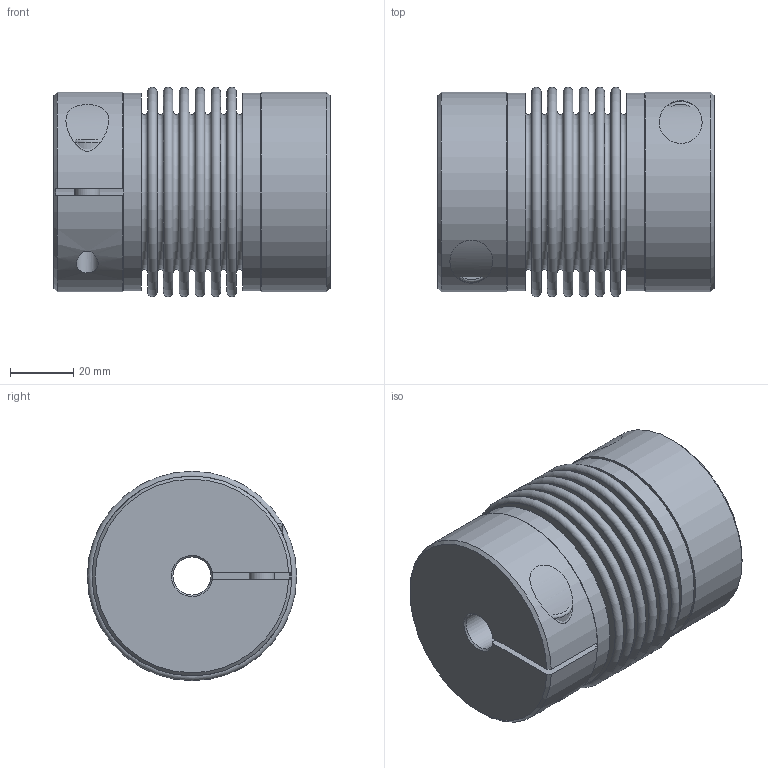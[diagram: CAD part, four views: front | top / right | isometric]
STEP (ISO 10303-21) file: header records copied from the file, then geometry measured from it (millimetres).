
FILE_DESCRIPTION(/* description */ ('Unknown'),/* implementation_level */ '2;1');
FILE_NAME(/* name */ 'KM 60 - 87',/* time_stamp */ '2020-05-06T15:35:26+03:00',/* author */ ('Unknown'),/* organization */ ('Unknown'),/* preprocessor_version */ 'ST-DEVELOPER v16.7',/* originating_system */ 'DEX',/* authorisation */ $);
FILE_SCHEMA (('AUTOMOTIVE_DESIGN {1 0 10303 214 3 1 1}'));
Length unit declared in the file: millimetre
Products named in the file (1): KM 60 - 87
Bounding box: 87 x 66 x 66 mm (x, y, z)
Volume: 165120.3 mm3; surface area: 76536.7 mm2
Topology: 1 solids, 3 shells, 134 faces, 268 edges, 174 vertices
Faces by surface type: plane 72, torus 30, cylinder 24, cone 8
Full cylindrical faces by diameter (mm): 6.8 x2, 8 x2, 8.6 x2, 13 x2, 13.5 x2, 62.3 x2
Entity records: 3321 total; most frequent: CARTESIAN_POINT 648, DIRECTION 590, ORIENTED_EDGE 420, AXIS2_PLACEMENT_3D 253, FACE_BOUND 222, EDGE_LOOP 218, EDGE_CURVE 210, VERTEX_POINT 164
